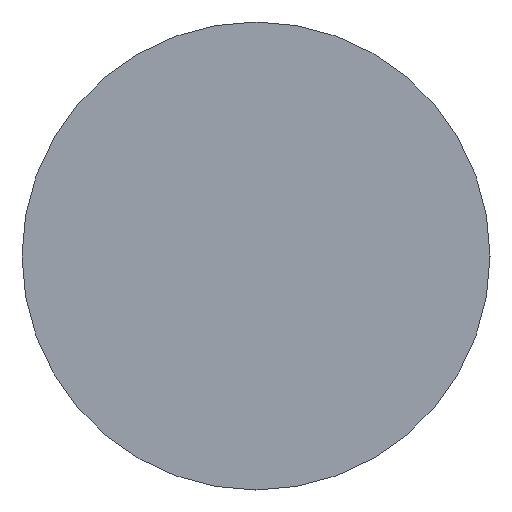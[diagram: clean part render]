
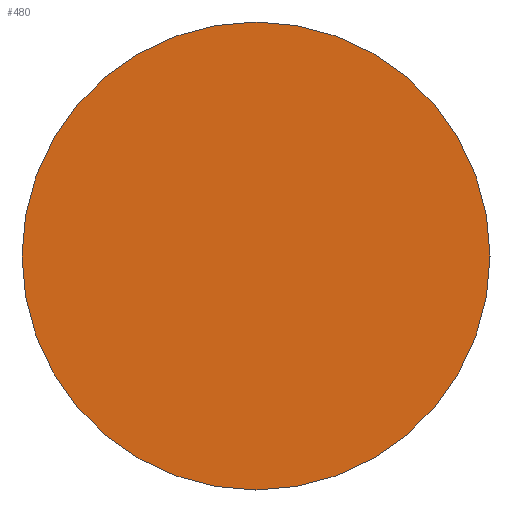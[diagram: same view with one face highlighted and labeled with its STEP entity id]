
A CAD part, left-side view. The second image highlights one B-rep face of the part: STEP entity #480.
In plain terms, the highlighted planar face has unit normal (-1, 0, 0).
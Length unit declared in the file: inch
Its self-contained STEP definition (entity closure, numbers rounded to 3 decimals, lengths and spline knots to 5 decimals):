
#44 = CARTESIAN_POINT ( 'NONE',  ( -4., 0., 0. ) ) ;
#56 = PLANE ( 'NONE',  #132 ) ;
#66 = CIRCLE ( 'NONE', #206, 0.25 ) ;
#96 = CARTESIAN_POINT ( 'NONE',  ( -4., 0., -0.25 ) ) ;
#102 = DIRECTION ( 'NONE',  ( 1., 0., 0. ) ) ;
#119 = AXIS2_PLACEMENT_3D ( 'NONE', #572, #443, #389 ) ;
#132 = AXIS2_PLACEMENT_3D ( 'NONE', #293, #102, #533 ) ;
#206 = AXIS2_PLACEMENT_3D ( 'NONE', #44, #322, #274 ) ;
#273 = ORIENTED_EDGE ( 'NONE', *, *, #412, .T. ) ;
#274 = DIRECTION ( 'NONE',  ( 0., 0., 1. ) ) ;
#293 = CARTESIAN_POINT ( 'NONE',  ( -4., 0.25, 0. ) ) ;
#302 = EDGE_CURVE ( 'NONE', #450, #400, #66, .T. ) ;
#322 = DIRECTION ( 'NONE',  ( -1., 0., 0. ) ) ;
#342 = FACE_OUTER_BOUND ( 'NONE', #453, .T. ) ;
#389 = DIRECTION ( 'NONE',  ( 0., 0., 1. ) ) ;
#400 = VERTEX_POINT ( 'NONE', #583 ) ;
#412 = EDGE_CURVE ( 'NONE', #400, #450, #577, .T. ) ;
#443 = DIRECTION ( 'NONE',  ( -1., 0., 0. ) ) ;
#450 = VERTEX_POINT ( 'NONE', #96 ) ;
#453 = EDGE_LOOP ( 'NONE', ( #273, #584 ) ) ;
#480 = ADVANCED_FACE ( 'NONE', ( #342 ), #56, .F. ) ;
#533 = DIRECTION ( 'NONE',  ( 0., 0., -1. ) ) ;
#572 = CARTESIAN_POINT ( 'NONE',  ( -4., 0., 0. ) ) ;
#577 = CIRCLE ( 'NONE', #119, 0.25 ) ;
#583 = CARTESIAN_POINT ( 'NONE',  ( -4., 0., 0.25 ) ) ;
#584 = ORIENTED_EDGE ( 'NONE', *, *, #302, .T. ) ;
